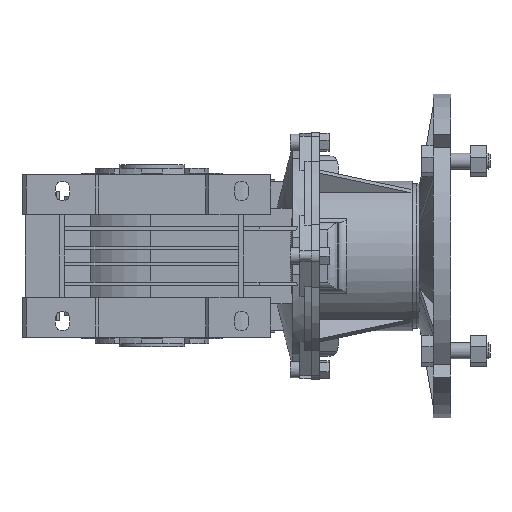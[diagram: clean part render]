
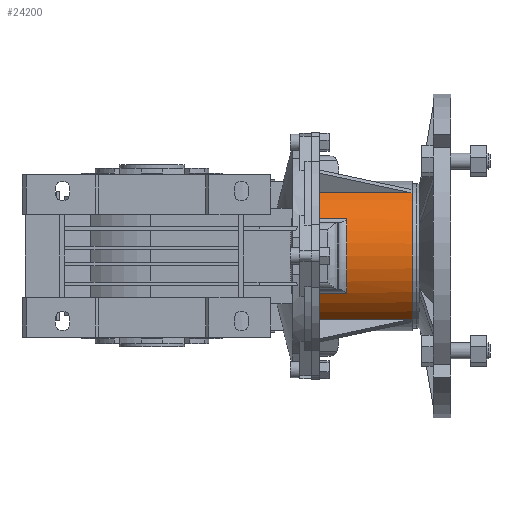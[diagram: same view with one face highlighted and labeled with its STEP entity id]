
A CAD part, front view. The second image highlights one B-rep face of the part: STEP entity #24200.
In plain terms, the highlighted cylindrical face has radius 46 mm (diameter 92 mm), a partial arc.
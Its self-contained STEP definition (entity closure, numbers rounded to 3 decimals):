
#626=CIRCLE('',#25554,46.);
#627=CIRCLE('',#25555,46.);
#628=CIRCLE('',#25556,46.);
#629=CIRCLE('',#25557,46.);
#929=CYLINDRICAL_SURFACE('',#25553,46.);
#4560=ORIENTED_EDGE('',*,*,#7808,.F.);
#4561=ORIENTED_EDGE('',*,*,#7809,.F.);
#4562=ORIENTED_EDGE('',*,*,#7810,.F.);
#4563=ORIENTED_EDGE('',*,*,#7811,.F.);
#4564=ORIENTED_EDGE('',*,*,#7812,.T.);
#4565=ORIENTED_EDGE('',*,*,#7813,.F.);
#4566=ORIENTED_EDGE('',*,*,#7814,.T.);
#4567=ORIENTED_EDGE('',*,*,#7815,.T.);
#7808=EDGE_CURVE('',#9754,#9755,#11614,.F.);
#7809=EDGE_CURVE('',#9756,#9754,#626,.T.);
#7810=EDGE_CURVE('',#9757,#9756,#11615,.T.);
#7811=EDGE_CURVE('',#9758,#9757,#627,.T.);
#7812=EDGE_CURVE('',#9758,#9759,#11616,.T.);
#7813=EDGE_CURVE('',#9760,#9759,#628,.T.);
#7814=EDGE_CURVE('',#9760,#9761,#11617,.F.);
#7815=EDGE_CURVE('',#9761,#9755,#629,.T.);
#9754=VERTEX_POINT('',#34749);
#9755=VERTEX_POINT('',#34750);
#9756=VERTEX_POINT('',#34752);
#9757=VERTEX_POINT('',#34754);
#9758=VERTEX_POINT('',#34756);
#9759=VERTEX_POINT('',#34758);
#9760=VERTEX_POINT('',#34760);
#9761=VERTEX_POINT('',#34762);
#11614=LINE('',#34748,#13447);
#11615=LINE('',#34753,#13448);
#11616=LINE('',#34757,#13449);
#11617=LINE('',#34761,#13450);
#13447=VECTOR('',#29504,1000.);
#13448=VECTOR('',#29507,1000.);
#13449=VECTOR('',#29510,1000.);
#13450=VECTOR('',#29513,1000.);
#14636=EDGE_LOOP('',(#4560,#4561,#4562,#4563,#4564,#4565,#4566,#4567));
#15800=FACE_BOUND('',#14636,.T.);
#24200=ADVANCED_FACE('',(#15800),#929,.T.);
#25553=AXIS2_PLACEMENT_3D('',#34747,#29502,#29503);
#25554=AXIS2_PLACEMENT_3D('',#34751,#29505,#29506);
#25555=AXIS2_PLACEMENT_3D('',#34755,#29508,#29509);
#25556=AXIS2_PLACEMENT_3D('',#34759,#29511,#29512);
#25557=AXIS2_PLACEMENT_3D('',#34763,#29514,#29515);
#29502=DIRECTION('',(1.,0.,0.));
#29503=DIRECTION('',(0.,0.,-1.));
#29504=DIRECTION('',(1.,0.,0.));
#29505=DIRECTION('',(1.,0.,0.));
#29506=DIRECTION('',(0.,0.,-1.));
#29507=DIRECTION('',(1.,0.,0.));
#29508=DIRECTION('',(1.,0.,0.));
#29509=DIRECTION('',(0.,0.,-1.));
#29510=DIRECTION('',(1.,0.,0.));
#29511=DIRECTION('',(1.,0.,0.));
#29512=DIRECTION('',(0.,0.,-1.));
#29513=DIRECTION('',(1.,0.,0.));
#29514=DIRECTION('',(1.,0.,0.));
#29515=DIRECTION('',(0.,0.,-1.));
#34747=CARTESIAN_POINT('',(-1.,0.,0.));
#34748=CARTESIAN_POINT('',(-1.,-24.71,-38.799));
#34749=CARTESIAN_POINT('',(1.,-24.71,-38.799));
#34750=CARTESIAN_POINT('',(-62.,-24.71,-38.799));
#34751=CARTESIAN_POINT('',(1.,0.,0.));
#34752=CARTESIAN_POINT('',(1.,-39.837,-23.));
#34753=CARTESIAN_POINT('',(-49.,-39.837,-23.));
#34754=CARTESIAN_POINT('',(-22.,-39.837,-23.));
#34755=CARTESIAN_POINT('',(-22.,0.,0.));
#34756=CARTESIAN_POINT('',(-22.,-39.837,23.));
#34757=CARTESIAN_POINT('',(-49.,-39.837,23.));
#34758=CARTESIAN_POINT('',(1.,-39.837,23.));
#34759=CARTESIAN_POINT('',(1.,0.,0.));
#34760=CARTESIAN_POINT('',(1.,-24.71,38.799));
#34761=CARTESIAN_POINT('',(-1.,-24.71,38.799));
#34762=CARTESIAN_POINT('',(-62.,-24.71,38.799));
#34763=CARTESIAN_POINT('',(-62.,0.,0.));
